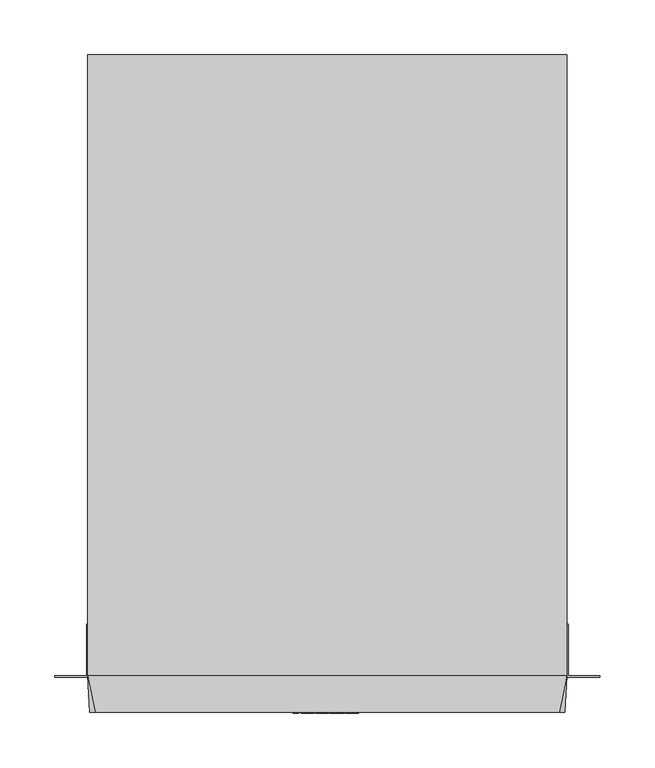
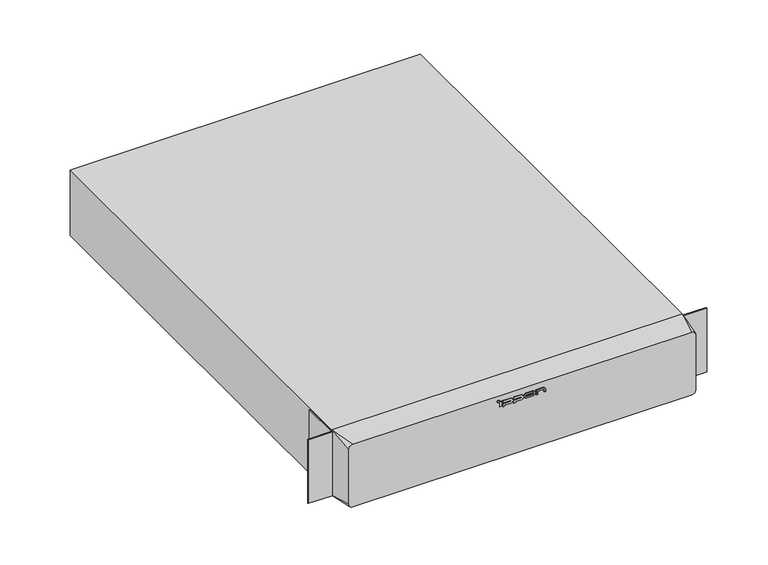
"""IFC4 building model written with IfcOpenShell, lengths in millimetres: proxy geometry, IPPON_ИБП_Smart Winner II_1000_1500_2000_2000E_3000ВА : Smart Winner II 2000 ВА."""

from ifc_helpers import new_model, si_unit, point, frame, frame_2d, origin, place, context, project, spatial, polyline, circle_curve, trimmed, segment, composite_curve, outline, extrude, source, transform, mapped, element, save
from ifc_brep_helpers import plane_surface, spline_surface, advanced_brep


def electrical_equipment_1216eed7(model_context):
    return source(origin(), model_context, "Body", "SolidModel", [
        extrude(outline(polyline([(-29.1718133, -1.0), (-31.1718133, -1.0), (-31.1718133, 0.0), (-29.1718133, 0.0), (-29.1718133, -1.0)])), frame((0.0, 0.0, 78.9695835), z_axis=(0.0, 0.0, 1.0), x_axis=(1.0, 0.0, 0.0)), (0.0, 0.0, 1.0), 2.3),
        extrude(outline(polyline([(18.6035474, -1.0), (16.6035474, -1.0), (16.6035474, 0.0), (18.6035474, 0.0), (18.6035474, -1.0)])), frame((0.0, 0.0, 72.9695835), z_axis=(0.0, 0.0, 1.0), x_axis=(1.0, 0.0, 0.0)), (0.0, 0.0, 1.0), 2.2268231),
        extrude(outline(polyline([(-26.438565, -1.0), (-28.4833324, -1.0), (-28.4833324, 0.0), (-26.438565, 0.0), (-26.438565, -1.0)])), frame((0.0, 0.0, 72.9695835), z_axis=(0.0, 0.0, 1.0), x_axis=(1.0, 0.0, 0.0)), (0.0, 0.0, 1.0), 6.0),
        extrude(outline(composite_curve([segment(polyline([(76.7071435, -24.2241109), (76.7071435, -14.9923536)]), True, "CONTINUOUS"), segment(trimmed(circle_curve(frame_2d((75.8506642, -14.9923536)), 0.8564793), [point((76.7071435, -14.9923536))], [point((74.9941849, -14.9923536))], True, "CARTESIAN"), True, "CONTINUOUS"), segment(polyline([(74.9941849, -14.9923536), (74.9941849, -24.2241109), (71.5036803, -24.2241109), (71.5036803, -22.2241109), (72.9695835, -22.2241109), (72.9695835, -15.1486036)]), True, "CONTINUOUS"), segment(trimmed(circle_curve(frame_2d((75.9695835, -15.1486036)), 3.0), [point((72.9695835, -15.1486036))], [point((78.9695835, -15.1486036))], False, "CARTESIAN"), True, "CONTINUOUS"), segment(polyline([(78.9695835, -15.1486036), (78.9695835, -24.2241109), (76.7071435, -24.2241109)]), True, "CONTINUOUS")], self_intersect=False)), frame((0.0, -1.0, 0.0), z_axis=(0.0, 1.0, 0.0), x_axis=(0.0, 0.0, 1.0)), (0.0, 0.0, 1.0), 1.0),
        extrude(outline(composite_curve([segment(polyline([(76.7071435, -11.0171091), (76.7071435, -1.7853518)]), True, "CONTINUOUS"), segment(trimmed(circle_curve(frame_2d((75.8506642, -1.7853518)), 0.8564793), [point((76.7071435, -1.7853518))], [point((74.9941849, -1.7853518))], True, "CARTESIAN"), True, "CONTINUOUS"), segment(polyline([(74.9941849, -1.7853518), (74.9941849, -11.0171091), (71.5036803, -11.0171091), (71.5036803, -9.0171091), (72.9695835, -9.0171091), (72.9695835, -1.9416018)]), True, "CONTINUOUS"), segment(trimmed(circle_curve(frame_2d((75.9695835, -1.9416018)), 3.0), [point((72.9695835, -1.9416018))], [point((78.9695835, -1.9416018))], False, "CARTESIAN"), True, "CONTINUOUS"), segment(polyline([(78.9695835, -1.9416018), (78.9695835, -11.0171091), (76.7071435, -11.0171091)]), True, "CONTINUOUS")], self_intersect=False)), frame((0.0, -1.0, 0.0), z_axis=(0.0, 1.0, 0.0), x_axis=(0.0, 0.0, 1.0)), (0.0, 0.0, 1.0), 1.0),
        extrude(outline(composite_curve([segment(trimmed(circle_curve(frame_2d((75.9695835, 12.558657)), 3.0), [point((72.9695835, 12.558657))], [point((78.9695835, 12.558657))], False, "CARTESIAN"), True, "CONTINUOUS"), segment(polyline([(78.9695835, 12.558657), (78.9695835, 4.958657)]), True, "CONTINUOUS"), segment(trimmed(circle_curve(frame_2d((75.9695835, 4.958657)), 3.0), [point((78.9695835, 4.958657))], [point((72.9695835, 4.958657))], False, "CARTESIAN"), True, "CONTINUOUS"), segment(polyline([(72.9695835, 4.958657), (72.9695835, 12.558657)]), True, "CONTINUOUS")], self_intersect=False), holes=[composite_curve([segment(polyline([(74.9941849, 12.714907), (74.9941849, 4.802407)]), True, "CONTINUOUS"), segment(trimmed(circle_curve(frame_2d((75.8506642, 4.802407)), 0.8564793), [point((74.9941849, 4.802407))], [point((76.7071435, 4.802407))], True, "CARTESIAN"), True, "CONTINUOUS"), segment(polyline([(76.7071435, 4.802407), (76.7071435, 12.714907)]), True, "CONTINUOUS"), segment(trimmed(circle_curve(frame_2d((75.8506642, 12.714907)), 0.8564793), [point((76.7071435, 12.714907))], [point((74.9941849, 12.714907))], True, "CARTESIAN"), True, "CONTINUOUS")], self_intersect=False)]), frame((0.0, -1.0, 0.0), z_axis=(0.0, 1.0, 0.0), x_axis=(0.0, 0.0, 1.0)), (0.0, 0.0, 1.0), 1.0),
        extrude(outline(composite_curve([segment(polyline([(76.7071435, 16.6035474), (76.7071435, 25.8353046)]), True, "CONTINUOUS"), segment(trimmed(circle_curve(frame_2d((75.8506642, 25.8353046)), 0.8564793), [point((76.7071435, 25.8353046))], [point((75.8506642, 26.6917839))], True, "CARTESIAN"), True, "CONTINUOUS"), segment(polyline([(75.8506642, 26.6917839), (72.9695835, 26.6917839), (72.9695835, 28.6317921), (76.5, 28.6317921)]), True, "CONTINUOUS"), segment(trimmed(circle_curve(frame_2d((75.9695835, 25.6790546)), 3.0), [point((76.5, 28.6317921))], [point((78.9695835, 25.6790546))], False, "CARTESIAN"), True, "CONTINUOUS"), segment(polyline([(78.9695835, 25.6790546), (78.9695835, 16.6035474), (76.7071435, 16.6035474)]), True, "CONTINUOUS")], self_intersect=False)), frame((0.0, -1.0, 0.0), z_axis=(0.0, 1.0, 0.0), x_axis=(0.0, 0.0, 1.0)), (0.0, 0.0, 1.0), 1.0),
        extrude(outline(polyline([(219.0, 32.0), (219.0, 80.0), (220.0, 80.0), (220.0, 33.0), (249.0, 33.0), (249.0, 32.0), (219.0, 32.0)])), frame((0.0, 0.0, 2.0), z_axis=(0.0, 0.0, 1.0), x_axis=(1.0, 0.0, 0.0)), (0.0, 0.0, 1.0), 84.5),
        extrude(outline(polyline([(-219.0, 32.0), (-249.0, 32.0), (-249.0, 33.0), (-220.0, 33.0), (-220.0, 80.0), (-219.0, 80.0), (-219.0, 32.0)])), frame((0.0, 0.0, 2.0), z_axis=(0.0, 0.0, 1.0), x_axis=(1.0, 0.0, 0.0)), (0.0, 0.0, 1.0), 84.5),
        advanced_brep(
        [(212.0, 0.0, 4.0), (217.0, 0.0, 9.0), (217.0, 0.0, 81.5), (212.0, 0.0, 86.5), (-212.0, 0.0, 86.5), (-217.0, 0.0, 81.5), (-217.0, 0.0, 9.0), (-212.0, 0.0, 4.0), (219.0, 33.0, 2.0), (-219.0, 33.0, 2.0), (-219.0, 33.0, 88.5), (219.0, 33.0, 88.5)],
        [
            (0, 1, circle_curve(frame((212.0, 0.0, 9.0), z_axis=(0.0, -1.0, 0.0), x_axis=(-1.0, 0.0, 0.0)), 5.0)),
            (1, 2),
            (2, 3, circle_curve(frame((212.0, 0.0, 81.5), z_axis=(0.0, -1.0, 0.0), x_axis=(-1.0, 0.0, 0.0)), 5.0)),
            (3, 4),
            (4, 5, circle_curve(frame((-212.0, 0.0, 81.5), z_axis=(0.0, -1.0, 0.0), x_axis=(-1.0, 0.0, 0.0)), 5.0)),
            (5, 6),
            (6, 7, circle_curve(frame((-212.0, 0.0, 9.0), z_axis=(0.0, -1.0, 0.0), x_axis=(-1.0, 0.0, 0.0)), 5.0)),
            (7, 0),
            (8, 9),
            (9, 10),
            (10, 11),
            (11, 8),
            (0, 8),
            (8, 1),
            (7, 9),
            (6, 9),
            (5, 10),
            (4, 10),
            (3, 11),
            (2, 11),
        ],
        [
            plane_surface(frame((0.0, 0.0, 45.25), z_axis=(0.0, -1.0, 0.0), x_axis=(1.0, 0.0, 0.0))),
            plane_surface(frame((0.0, 33.0, 45.25), z_axis=(0.0, 1.0, 0.0), x_axis=(1.0, 0.0, 0.0))),
            spline_surface(2, 1, [[(219.0, 33.0, 2.0), (212.0, 0.0, 4.0)], [(219.0, 33.0, 2.0), (217.0, 0.0, 4.0)], [(219.0, 33.0, 2.0), (217.0, 0.0, 9.0)]], [3, 3], [2, 2], [0.0, 1.0], [0.0, 1.0], weights=[[1.0, 1.0], [0.7071067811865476, 0.7071067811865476], [1.0, 1.0]]),
            plane_surface(frame((0.0, 33.0, 2.0), z_axis=(0.0, -0.060495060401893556, -0.9981684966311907), x_axis=(1.0, 0.0, 0.0))),
            spline_surface(2, 1, [[(-219.0, 33.0, 2.0), (-217.0, 0.0, 9.0)], [(-219.0, 33.0, 2.0), (-217.0, 0.0, 4.0)], [(-219.0, 33.0, 2.0), (-212.0, 0.0, 4.0)]], [3, 3], [2, 2], [0.0, 1.0], [0.0, 1.0], weights=[[1.0, 1.0], [0.7071067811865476, 0.7071067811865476], [1.0, 1.0]]),
            plane_surface(frame((-219.0, 33.0, 45.25), z_axis=(-0.9981684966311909, -0.06049506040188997, 0.0), x_axis=(0.0, 0.0, -1.0))),
            spline_surface(2, 1, [[(-219.0, 33.0, 88.5), (-212.0, 0.0, 86.5)], [(-219.0, 33.0, 88.5), (-217.0, 0.0, 86.5)], [(-219.0, 33.0, 88.5), (-217.0, 0.0, 81.5)]], [3, 3], [2, 2], [0.0, 1.0], [0.0, 1.0], weights=[[1.0, 1.0], [0.7071067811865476, 0.7071067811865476], [1.0, 1.0]]),
            plane_surface(frame((0.0, 33.0, 88.5), z_axis=(0.0, -0.060495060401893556, 0.9981684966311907), x_axis=(-1.0, 0.0, 0.0))),
            spline_surface(2, 1, [[(219.0, 33.0, 88.5), (217.0, 0.0, 81.5)], [(219.0, 33.0, 88.5), (217.0, 0.0, 86.5)], [(219.0, 33.0, 88.5), (212.0, 0.0, 86.5)]], [3, 3], [2, 2], [0.0, 1.0], [0.0, 1.0], weights=[[1.0, 1.0], [0.7071067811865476, 0.7071067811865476], [1.0, 1.0]]),
            plane_surface(frame((219.0, 33.0, 45.25), z_axis=(0.9981684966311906, -0.06049506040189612, 0.0), x_axis=(0.0, 0.0, 1.0))),
        ],
        [
            (0, [[1, 2, 3, 4, 5, 6, 7, 8]]),
            (1, [[9, 10, 11, 12]]),
            (2, [[-1, 13, 14]]),
            (3, [[-9, -13, -8, 15]]),
            (4, [[-7, 16, -15]]),
            (5, [[-10, -16, -6, 17]]),
            (6, [[-5, 18, -17]]),
            (7, [[-11, -18, -4, 19]]),
            (8, [[-3, 20, -19]]),
            (9, [[-12, -20, -2, -14]]),
        ],
    ),
        extrude(outline(polyline([(219.0, 33.0), (-219.0, 33.0), (-219.0, 600.0), (219.0, 600.0), (219.0, 33.0)])), frame((0.0, 0.0, 2.0), z_axis=(0.0, 0.0, 1.0), x_axis=(1.0, 0.0, 0.0)), (0.0, 0.0, 1.0), 86.5),
    ])


if __name__ == "__main__":
    model = new_model("IFC4")
    model_context = context("Model", 3, world=origin())
    ifc_project = project(units=[si_unit("LENGTHUNIT", "METRE", prefix="MILLI")], contexts=[model_context])
    site = spatial("IfcSite", under=ifc_project)
    building = spatial("IfcBuilding", under=site)
    placement = place(None, origin())
    electrical_equipment_shape = electrical_equipment_1216eed7(model_context)
    element("IfcBuildingElementProxy", 1, Name="IPPON_ИБП_Smart Winner II_1000_1500_2000_2000E_3000ВА : Smart Winner II 2000 ВА", ObjectType="IPPON_ИБП_Smart Winner II_1000_1500_2000_2000E_3000ВА : Smart Winner II 2000 ВА", at=placement, inside=building, context=model_context, shape_type="MappedRepresentation", body=[
        mapped(electrical_equipment_shape, transform((0.0, 0.0, 0.0), x_axis=(1.0, 0.0, 0.0), y_axis=(0.0, 1.0, 0.0), z_axis=(0.0, 0.0, 1.0))),
    ])
    save(model, "model.ifc")
